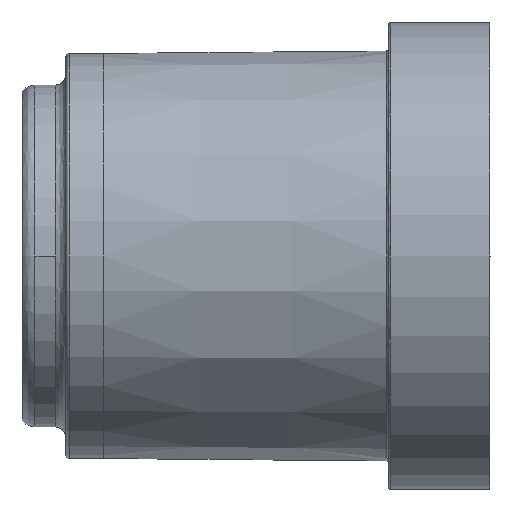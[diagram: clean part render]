
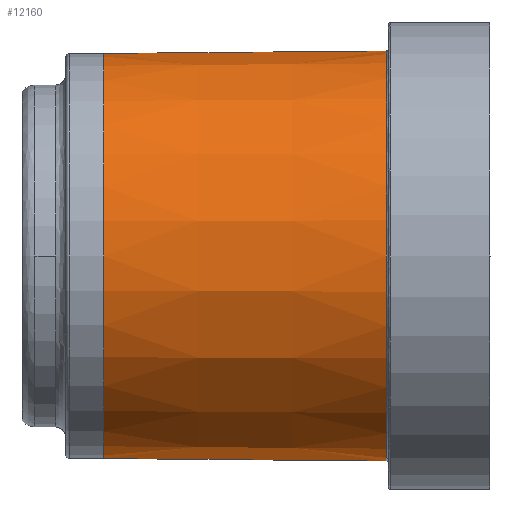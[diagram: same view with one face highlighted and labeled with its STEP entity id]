
A CAD part, front view. The second image highlights one B-rep face of the part: STEP entity #12160.
In plain terms, the highlighted conical face has half-angle 0.5 degrees and reference radius 19.95 mm.
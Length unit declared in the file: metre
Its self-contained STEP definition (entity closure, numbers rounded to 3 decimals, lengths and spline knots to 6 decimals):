
#339 = CARTESIAN_POINT ( 'NONE',  ( 0.00805, 0., 0.01995 ) ) ;
#1228 = CARTESIAN_POINT ( 'NONE',  ( 0.00805, 0., 0.01995 ) ) ;
#1345 = AXIS2_PLACEMENT_3D ( 'NONE', #13353, #4263, #3990 ) ;
#1425 = VECTOR ( 'NONE', #18374, 1. ) ;
#1598 = VERTEX_POINT ( 'NONE', #339 ) ;
#1747 = CONICAL_SURFACE ( 'NONE', #3232, 0.01995, 0.009 ) ;
#1877 = ORIENTED_EDGE ( 'NONE', *, *, #5819, .T. ) ;
#2453 = ORIENTED_EDGE ( 'NONE', *, *, #17592, .F. ) ;
#3123 = EDGE_CURVE ( 'NONE', #12246, #13789, #10072, .T. ) ;
#3232 = AXIS2_PLACEMENT_3D ( 'NONE', #18051, #5499, #7054 ) ;
#3862 = DIRECTION ( 'NONE',  ( 1., 0., -0.009 ) ) ;
#3990 = DIRECTION ( 'NONE',  ( 0., 0., 1. ) ) ;
#4263 = DIRECTION ( 'NONE',  ( -1., 0., 0. ) ) ;
#5499 = DIRECTION ( 'NONE',  ( 1., 0., 0. ) ) ;
#5819 = EDGE_CURVE ( 'NONE', #13789, #7015, #11000, .T. ) ;
#6090 = LINE ( 'NONE', #1228, #1425 ) ;
#6702 = EDGE_CURVE ( 'NONE', #1598, #7015, #6090, .T. ) ;
#7015 = VERTEX_POINT ( 'NONE', #10018 ) ;
#7054 = DIRECTION ( 'NONE',  ( 0., 0., -1. ) ) ;
#8987 = EDGE_LOOP ( 'NONE', ( #18339, #2453, #10660, #1877 ) ) ;
#9820 = FACE_OUTER_BOUND ( 'NONE', #8987, .T. ) ;
#10016 = DIRECTION ( 'NONE',  ( 0., 0., -1. ) ) ;
#10018 = CARTESIAN_POINT ( 'NONE',  ( 0.035902, 0., 0.020193 ) ) ;
#10072 = LINE ( 'NONE', #13204, #13253 ) ;
#10660 = ORIENTED_EDGE ( 'NONE', *, *, #3123, .T. ) ;
#11000 = CIRCLE ( 'NONE', #1345, 0.020193 ) ;
#12074 = CARTESIAN_POINT ( 'NONE',  ( 0.035902, 0., -0.020193 ) ) ;
#12160 = ADVANCED_FACE ( 'NONE', ( #9820 ), #1747, .T. ) ;
#12246 = VERTEX_POINT ( 'NONE', #13621 ) ;
#13115 = CIRCLE ( 'NONE', #16411, 0.01995 ) ;
#13204 = CARTESIAN_POINT ( 'NONE',  ( 0.00805, 0., -0.01995 ) ) ;
#13253 = VECTOR ( 'NONE', #3862, 1. ) ;
#13353 = CARTESIAN_POINT ( 'NONE',  ( 0.035902, 0., 0. ) ) ;
#13621 = CARTESIAN_POINT ( 'NONE',  ( 0.00805, 0., -0.01995 ) ) ;
#13789 = VERTEX_POINT ( 'NONE', #12074 ) ;
#16411 = AXIS2_PLACEMENT_3D ( 'NONE', #17806, #19376, #10016 ) ;
#17592 = EDGE_CURVE ( 'NONE', #12246, #1598, #13115, .T. ) ;
#17806 = CARTESIAN_POINT ( 'NONE',  ( 0.00805, 0., 0. ) ) ;
#18051 = CARTESIAN_POINT ( 'NONE',  ( 0.00805, 0., 0. ) ) ;
#18339 = ORIENTED_EDGE ( 'NONE', *, *, #6702, .F. ) ;
#18374 = DIRECTION ( 'NONE',  ( 1., 0., 0.009 ) ) ;
#19376 = DIRECTION ( 'NONE',  ( -1., 0., 0. ) ) ;
